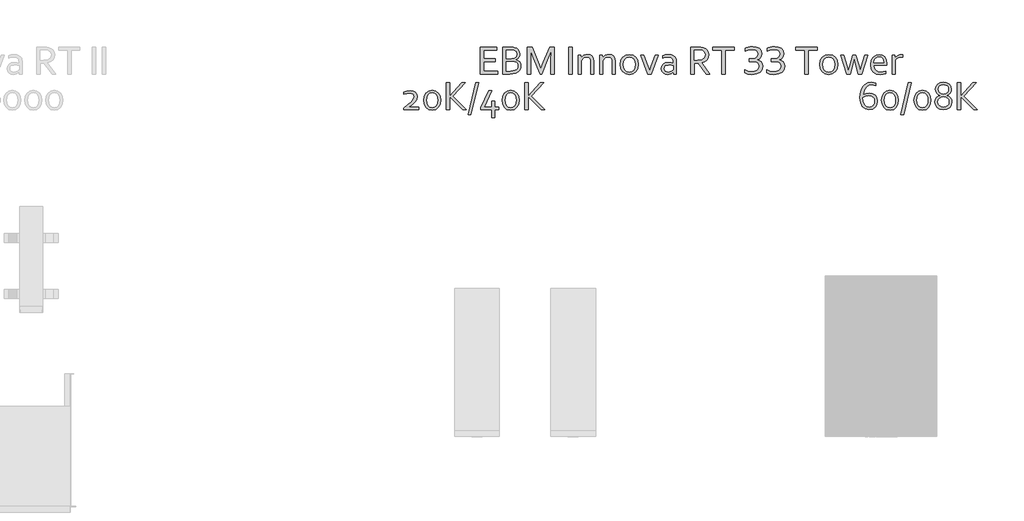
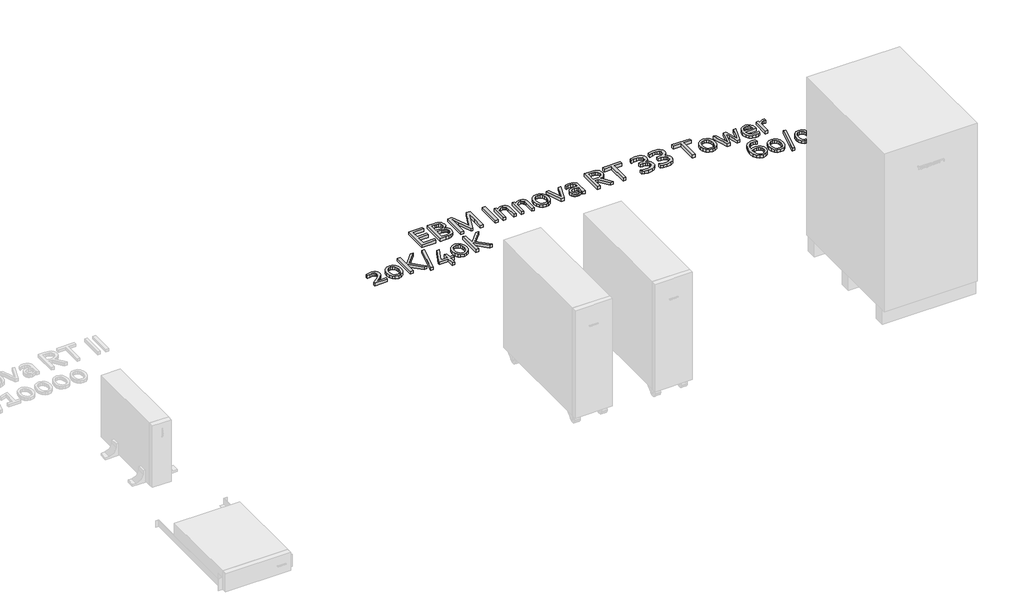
# One storey, part 9 of 14: 1 proxy.
"""IFC4 building model written with IfcOpenShell, lengths in millimetres."""

from ifc_helpers import new_model, si_unit, origin, origin_with_axes, place, context, project, spatial, polyline, outline, extrude, element, save

model = new_model("IFC4")

# Units and contexts
model_context = context("Model", 3, world=origin())
ifc_project = project(units=[si_unit("LENGTHUNIT", "METRE", prefix="MILLI")], contexts=[model_context])

# Site, building, storey
site = spatial("IfcSite", under=ifc_project)
building = spatial("IfcBuilding", under=site)
storey = spatial("IfcBuildingStorey", under=building, Name="Этаж 01", Elevation=0.0)

# Proxy
placement = place(None, origin())
element("IfcBuildingElementProxy", 1, Name="150 мм Corbel", ObjectType="150 мм Corbel", at=placement, inside=storey, context=model_context, shape_type="SweptSolid", body=[
    extrude(outline(polyline([(19122.7174284, -7548.6877316), (19199.6305855, -7548.6877316), (19199.6305855, -7565.4878752), (19103.1172609, -7565.4878752), (19103.1172609, -7414.2865833), (19195.4743, -7414.2865833), (19195.4743, -7431.0867269), (19122.7174284, -7431.0867269), (19122.7174284, -7478.6871335), (19187.4242312, -7478.6871335), (19187.4242312, -7495.4872771), (19122.7174284, -7495.4872771), (19122.7174284, -7548.6877316)])), origin_with_axes(), (0.0, 0.0, 1.0), 20.0),
    extrude(outline(polyline([(19300.4314467, -7486.1246971), (19312.9221784, -7490.1278563), (19322.3285088, -7497.1497913), (19328.0598078, -7507.3217532), (19329.9191986, -7520.7749931), (19328.4098108, -7532.0407144), (19323.3785178, -7543.4814371), (19314.1471889, -7553.7190246), (19299.993943, -7561.37534), (19285.60007, -7564.5691173), (19266.6124078, -7565.4878752), (19229.1183374, -7565.4878752), (19229.1183374, -7414.2865833), (19265.5623988, -7414.2865833), (19274.6406014, -7414.4615848), (19282.1656656, -7414.9647141), (19288.5532202, -7415.7959712), (19294.1313929, -7416.9553561), (19306.6002494, -7422.1616506), (19316.1378309, -7430.0148427), (19322.1972577, -7440.3836813), (19324.3191508, -7453.0056641), (19323.0285148, -7463.4838786), (19318.8722293, -7472.7370827), (19311.4784161, -7480.3277726), (19300.4314467, -7486.1246971)]), holes=[polyline([(19275.8437366, -7478.6871335), (19284.8781888, -7478.1840042), (19291.7688727, -7476.7183667), (19303.7564751, -7468.1214183), (19307.5190073, -7454.3181753), (19303.5814736, -7440.9961865), (19291.2438682, -7433.2742455), (19281.618786, -7431.5898561), (19268.7124257, -7431.0867269), (19248.7185049, -7431.0867269), (19248.7185049, -7478.6871335), (19275.8437366, -7478.6871335)]), polyline([(19248.7185049, -7495.4872771), (19248.7185049, -7548.6877316), (19270.0249369, -7548.6877316), (19284.1125573, -7547.9439753), (19295.1376515, -7545.5814551), (19303.5814736, -7541.1845425), (19309.1596463, -7535.2344917), (19312.2002973, -7528.3219326), (19313.1190551, -7520.9062443), (19312.1346717, -7512.7030492), (19308.9408944, -7505.8342405), (19303.1002195, -7500.5185701), (19294.0876425, -7496.9747898), (19286.650079, -7495.8372801), (19276.3249907, -7495.4872771), (19248.7185049, -7495.4872771)])]), origin_with_axes(), (0.0, 0.0, 1.0), 20.0),
    extrude(outline(polyline([(19446.1639418, -7565.4878752), (19437.6763693, -7565.4878752), (19400.6635531, -7475.1871036), (19385.2634215, -7434.6305071), (19385.9196771, -7492.3810005), (19385.9196771, -7565.4878752), (19366.3195096, -7565.4878752), (19366.3195096, -7414.2865833), (19392.7884858, -7414.2865833), (19428.2262886, -7499.8185641), (19441.6139029, -7535.2126165), (19455.5702722, -7499.8185641), (19491.0518253, -7414.2865833), (19517.5208015, -7414.2865833), (19517.5208015, -7565.4878752), (19497.920634, -7565.4878752), (19497.920634, -7492.3810005), (19499.4956475, -7434.6305071), (19483.1767581, -7475.1871036), (19446.1639418, -7565.4878752)])), origin_with_axes(), (0.0, 0.0, 1.0), 20.0),
    extrude(outline(polyline([(19598.7214952, -7565.4878752), (19598.7214952, -7414.2865833), (19618.3216627, -7414.2865833), (19618.3216627, -7565.4878752), (19598.7214952, -7565.4878752)])), origin_with_axes(), (0.0, 0.0, 1.0), 20.0),
    extrude(outline(polyline([(19668.6345926, -7473.8745924), (19675.350275, -7467.0057837), (19683.203467, -7461.3838607), (19692.7191733, -7457.6213286), (19703.9848946, -7456.2869422), (19717.5912608, -7458.2994594), (19728.5944799, -7464.7963899), (19735.988293, -7476.4996149), (19738.7226914, -7494.2622666), (19738.7226914, -7565.4878752), (19721.9225479, -7565.4878752), (19721.9225479, -7496.4060349), (19720.5772239, -7484.4457765), (19716.5412519, -7476.3902389), (19709.9349454, -7471.8128561), (19700.8786181, -7470.2870618), (19683.3347182, -7475.5152314), (19668.7220933, -7489.8872292), (19668.7220933, -7565.4878752), (19651.9219498, -7565.4878752), (19651.9219498, -7459.0869661), (19665.2658138, -7459.0869661), (19668.6345926, -7473.8745924)])), origin_with_axes(), (0.0, 0.0, 1.0), 20.0),
    extrude(outline(polyline([(19789.0356213, -7473.8745924), (19795.7513036, -7467.0057837), (19803.6044957, -7461.3838607), (19813.120202, -7457.6213286), (19824.3859233, -7456.2869422), (19837.9922895, -7458.2994594), (19848.9955085, -7464.7963899), (19856.3893217, -7476.4996149), (19859.1237201, -7494.2622666), (19859.1237201, -7565.4878752), (19842.3235765, -7565.4878752), (19842.3235765, -7496.4060349), (19840.9782525, -7484.4457765), (19836.9422806, -7476.3902389), (19830.3359741, -7471.8128561), (19821.2796467, -7470.2870618), (19803.7357469, -7475.5152314), (19789.123122, -7489.8872292), (19789.123122, -7565.4878752), (19772.3229785, -7565.4878752), (19772.3229785, -7459.0869661), (19785.6668425, -7459.0869661), (19789.0356213, -7473.8745924)])), origin_with_axes(), (0.0, 0.0, 1.0), 20.0),
    extrude(outline(polyline([(19987.9248205, -7512.4186717), (19984.3591651, -7535.2344917), (19974.2528287, -7552.8877675), (19958.4370686, -7564.2628647), (19937.655641, -7568.2878991), (19916.4585849, -7564.2628647), (19900.5771992, -7552.8877675), (19890.5802388, -7535.2344917), (19887.1239593, -7512.4186717), (19890.6896148, -7489.4278503), (19900.7959511, -7471.7308241), (19916.6773368, -7460.3119765), (19937.5243899, -7456.2869422), (19958.6339453, -7460.3119765), (19974.515331, -7471.7308241), (19984.468541, -7489.4278503), (19987.9248205, -7512.4186717)]), holes=[polyline([(19971.124677, -7512.4186717), (19968.6309057, -7494.546644), (19961.6527211, -7481.312156), (19950.999505, -7473.0870857), (19937.5243899, -7470.2870618), (19924.0492748, -7473.0870857), (19913.3960588, -7481.312156), (19906.4178742, -7494.546644), (19903.9241028, -7512.4186717), (19906.4178742, -7530.1594483), (19913.4616843, -7543.3283108), (19924.1586507, -7551.4877555), (19937.655641, -7554.2877795), (19951.0651306, -7551.4877555), (19961.6527211, -7543.3283108), (19968.6309057, -7530.1594483), (19971.124677, -7512.4186717)])]), origin_with_axes(), (0.0, 0.0, 1.0), 20.0),
    extrude(outline(polyline([(20050.8378581, -7547.9002249), (20061.60045, -7518.2374715), (20083.1256339, -7459.0869661), (20099.9257774, -7459.0869661), (20059.8941854, -7565.4878752), (20041.9565322, -7565.4878752), (20001.9249401, -7459.0869661), (20018.7250837, -7459.0869661), (20040.1190165, -7518.2374715), (20050.8378581, -7547.9002249)])), origin_with_axes(), (0.0, 0.0, 1.0), 20.0),
    extrude(outline(polyline([(20184.4514996, -7553.7190246), (20178.6545751, -7559.034695), (20171.2388867, -7563.7597354), (20162.0513082, -7567.0628886), (20151.4199674, -7568.2878991), (20137.3979726, -7566.0347548), (20126.438504, -7559.4065732), (20119.2853179, -7548.7533572), (20116.725921, -7534.5126105), (20119.5696953, -7520.5124909), (20127.5322633, -7510.0342764), (20139.8479935, -7503.4060947), (20155.7512544, -7501.0873249), (20170.9982597, -7502.5748376), (20183.4889914, -7505.9436164), (20183.9264951, -7498.3310514), (20183.3577403, -7489.9966052), (20181.4327238, -7483.6309258), (20172.1576446, -7474.0714691), (20154.8762469, -7470.2870618), (20139.672992, -7471.7745745), (20125.5197461, -7475.8871096), (20125.5197461, -7462.1932426), (20131.8416751, -7459.8088472), (20139.5198657, -7457.905706), (20148.0293134, -7456.7025707), (20157.0200153, -7456.2869422), (20171.6545153, -7457.7142981), (20183.2702395, -7461.9963659), (20191.9328135, -7468.6300164), (20197.7078629, -7477.1121201), (20200.0266327, -7485.0090626), (20200.7266387, -7494.4810185), (20200.7266387, -7565.4878752), (20186.3327657, -7565.4878752), (20184.4514996, -7553.7190246)]), holes=[polyline([(20183.9264951, -7519.0687286), (20172.3107709, -7516.4655813), (20157.5450197, -7515.0874445), (20139.8917439, -7519.8562353), (20135.1174844, -7525.9047245), (20133.5260645, -7534.5126105), (20135.1229532, -7543.2626853), (20139.4979905, -7549.4533632), (20146.0824218, -7553.0846442), (20154.2199913, -7554.2877795), (20164.8075818, -7552.6471404), (20173.5139062, -7548.731482), (20179.9889615, -7544.1814431), (20183.9264951, -7540.6376628), (20183.9264951, -7519.0687286)])]), origin_with_axes(), (0.0, 0.0, 1.0), 20.0),
    extrude(outline(polyline([(20301.5274999, -7503.8873488), (20301.5274999, -7565.4878752), (20281.9273324, -7565.4878752), (20281.9273324, -7414.2865833), (20320.9089155, -7414.2865833), (20337.709059, -7415.0303397), (20350.3529171, -7417.3928599), (20364.2436607, -7423.2554099), (20374.4156226, -7432.1804862), (20380.6500509, -7443.9383992), (20382.7281937, -7458.2994594), (20379.8187938, -7474.880851), (20371.6374739, -7487.5684594), (20359.0154911, -7496.3622846), (20342.6966016, -7501.3935775), (20388.3282415, -7565.4878752), (20368.728074, -7565.4878752), (20323.2714357, -7503.8873488), (20301.5274999, -7503.8873488)]), holes=[polyline([(20301.5274999, -7431.0867269), (20301.5274999, -7487.0872053), (20319.2026509, -7487.0872053), (20333.2465209, -7486.5184504), (20343.7028602, -7484.4621829), (20358.074858, -7474.9683518), (20363.1280262, -7457.9494564), (20358.2936099, -7442.111821), (20345.2341233, -7433.4929974), (20335.8059178, -7431.6554817), (20321.8276733, -7431.0867269), (20301.5274999, -7431.0867269)])]), origin_with_axes(), (0.0, 0.0, 1.0), 20.0),
    extrude(outline(polyline([(20475.1289831, -7565.4878752), (20455.5288157, -7565.4878752), (20455.5288157, -7431.0867269), (20405.4346377, -7431.0867269), (20405.4346377, -7414.2865833), (20525.2231611, -7414.2865833), (20525.2231611, -7431.0867269), (20475.1289831, -7431.0867269), (20475.1289831, -7565.4878752)])), origin_with_axes(), (0.0, 0.0, 1.0), 20.0),
    extrude(outline(polyline([(20586.2986829, -7420.9803905), (20593.911248, -7417.5678613), (20603.6019558, -7414.5709607), (20615.0864289, -7412.3615669), (20627.9927892, -7411.4865594), (20649.9117264, -7414.2865833), (20666.0993647, -7422.3804025), (20676.1182003, -7435.2648875), (20679.5307295, -7452.5681604), (20677.5619627, -7465.0370169), (20672.2462923, -7474.5745984), (20664.4149753, -7481.4871575), (20654.9867698, -7486.0371963), (20666.361867, -7490.674736), (20675.6806966, -7497.5435446), (20682.396379, -7507.6717562), (20685.1307773, -7521.4312487), (20681.6526226, -7539.5876539), (20670.7369044, -7554.5065313), (20651.8586181, -7564.5691173), (20624.4052585, -7568.2878991), (20602.0050671, -7565.9035037), (20584.1549146, -7559.144071), (20584.1549146, -7542.8689319), (20601.7425649, -7549.1471105), (20622.2614902, -7551.4877555), (20641.0413381, -7549.5080511), (20654.5930164, -7543.5689379), (20662.7962115, -7533.9657308), (20665.5306099, -7520.993745), (20663.1352769, -7510.1764651), (20655.949278, -7502.1373339), (20643.9726132, -7497.1497913), (20627.2052824, -7495.4872771), (20610.2738878, -7495.4872771), (20610.2738878, -7478.6871335), (20625.5427682, -7478.6871335), (20642.1241599, -7476.8277427), (20652.7117504, -7471.6214482), (20658.3117982, -7463.7026305), (20659.930562, -7453.7494205), (20657.9180448, -7443.4243323), (20651.6398662, -7435.3523883), (20640.8335239, -7430.1460938), (20625.0615141, -7428.2867029), (20605.1769692, -7430.5835976), (20586.2986829, -7436.6867747), (20586.2986829, -7420.9803905)])), origin_with_axes(), (0.0, 0.0, 1.0), 20.0),
    extrude(outline(polyline([(20709.4997355, -7420.9803905), (20717.1123006, -7417.5678613), (20726.8030084, -7414.5709607), (20738.2874815, -7412.3615669), (20751.1938418, -7411.4865594), (20773.112779, -7414.2865833), (20789.3004173, -7422.3804025), (20799.3192529, -7435.2648875), (20802.7317821, -7452.5681604), (20800.7630153, -7465.0370169), (20795.4473449, -7474.5745984), (20787.616028, -7481.4871575), (20778.1878224, -7486.0371963), (20789.5629196, -7490.674736), (20798.8817492, -7497.5435446), (20805.5974316, -7507.6717562), (20808.3318299, -7521.4312487), (20804.8536752, -7539.5876539), (20793.937957, -7554.5065313), (20775.0596707, -7564.5691173), (20747.6063111, -7568.2878991), (20725.2061197, -7565.9035037), (20707.3559672, -7559.144071), (20707.3559672, -7542.8689319), (20724.9436175, -7549.1471105), (20745.4625428, -7551.4877555), (20764.2423908, -7549.5080511), (20777.794069, -7543.5689379), (20785.9972641, -7533.9657308), (20788.7316625, -7520.993745), (20786.3363295, -7510.1764651), (20779.1503306, -7502.1373339), (20767.1736658, -7497.1497913), (20750.406335, -7495.4872771), (20733.4749404, -7495.4872771), (20733.4749404, -7478.6871335), (20748.7438208, -7478.6871335), (20765.3252125, -7476.8277427), (20775.912803, -7471.6214482), (20781.5128508, -7463.7026305), (20783.1316146, -7453.7494205), (20781.1190974, -7443.4243323), (20774.8409188, -7435.3523883), (20764.0345765, -7430.1460938), (20748.2625667, -7428.2867029), (20728.3780218, -7430.5835976), (20709.4997355, -7436.6867747), (20709.4997355, -7420.9803905)])), origin_with_axes(), (0.0, 0.0, 1.0), 20.0),
    extrude(outline(polyline([(20939.9329543, -7565.4878752), (20920.3327869, -7565.4878752), (20920.3327869, -7431.0867269), (20870.2386089, -7431.0867269), (20870.2386089, -7414.2865833), (20990.0271323, -7414.2865833), (20990.0271323, -7431.0867269), (20939.9329543, -7431.0867269), (20939.9329543, -7565.4878752)])), origin_with_axes(), (0.0, 0.0, 1.0), 20.0),
    extrude(outline(polyline([(21105.1343658, -7512.4186717), (21101.5687103, -7535.2344917), (21091.462374, -7552.8877675), (21075.6466138, -7564.2628647), (21054.8651863, -7568.2878991), (21033.6681302, -7564.2628647), (21017.7867445, -7552.8877675), (21007.7897841, -7535.2344917), (21004.3335045, -7512.4186717), (21007.89916, -7489.4278503), (21018.0054964, -7471.7308241), (21033.886882, -7460.3119765), (21054.7339352, -7456.2869422), (21075.8434905, -7460.3119765), (21091.7248762, -7471.7308241), (21101.6780862, -7489.4278503), (21105.1343658, -7512.4186717)]), holes=[polyline([(21088.3342222, -7512.4186717), (21085.8404509, -7494.546644), (21078.8622663, -7481.312156), (21068.2090503, -7473.0870857), (21054.7339352, -7470.2870618), (21041.25882, -7473.0870857), (21030.605604, -7481.312156), (21023.6274194, -7494.546644), (21021.1336481, -7512.4186717), (21023.6274194, -7530.1594483), (21030.6712296, -7543.3283108), (21041.368196, -7551.4877555), (21054.8651863, -7554.2877795), (21068.2746759, -7551.4877555), (21078.8622663, -7543.3283108), (21085.8404509, -7530.1594483), (21088.3342222, -7512.4186717)])]), origin_with_axes(), (0.0, 0.0, 1.0), 20.0),
    extrude(outline(polyline([(21197.4476545, -7476.6746163), (21190.841348, -7502.0060828), (21173.7349519, -7565.4878752), (21156.2785527, -7565.4878752), (21121.9345093, -7459.0869661), (21138.7346528, -7459.0869661), (21158.9473255, -7525.3687824), (21165.0286275, -7546.3252114), (21171.3724317, -7523.0500126), (21189.1350835, -7459.0869661), (21205.935227, -7459.0869661), (21224.660387, -7523.0500126), (21230.9166904, -7546.3252114), (21237.1292435, -7525.3687824), (21256.3356576, -7459.0869661), (21273.1358011, -7459.0869661), (21238.7917577, -7565.4878752), (21221.1603571, -7565.4878752), (21204.0102106, -7502.0060828), (21197.4476545, -7476.6746163)])), origin_with_axes(), (0.0, 0.0, 1.0), 20.0),
    extrude(outline(polyline([(21345.2801675, -7554.2877795), (21361.0521773, -7552.8221419), (21375.2491736, -7548.6877316), (21375.2491736, -7562.5128497), (21361.1178029, -7566.7347608), (21343.0488985, -7568.2878991), (21321.5893401, -7565.3784992), (21304.5704447, -7555.9721689), (21293.7641024, -7538.9970238), (21289.9359447, -7513.731183), (21293.9172287, -7488.4872173), (21304.5048192, -7470.6370648), (21319.7299492, -7459.8744728), (21337.7113529, -7456.2869422), (21354.2052438, -7459.2182172), (21367.5053574, -7468.4495461), (21376.4085585, -7484.7028099), (21379.6679613, -7508.5686388), (21379.6679613, -7510.8217831), (21379.5367102, -7515.0874445), (21305.8173304, -7515.0874445), (21308.9017317, -7533.2876), (21317.3236787, -7545.4064536), (21329.8362856, -7552.1658863), (21345.2801675, -7554.2877795)]), holes=[polyline([(21336.9675965, -7470.2870618), (21325.4612482, -7472.7152075), (21316.186169, -7479.321514), (21309.754864, -7489.0997225), (21306.7360882, -7501.0873249), (21362.7365667, -7501.0873249), (21361.0521773, -7488.9903466), (21356.0865099, -7479.212138), (21348.0364411, -7472.6714571), (21336.9675965, -7470.2870618)])]), origin_with_axes(), (0.0, 0.0, 1.0), 20.0),
    extrude(outline(polyline([(21468.1312172, -7470.2870618), (21454.6998524, -7471.4464467), (21443.5435071, -7474.9683518), (21434.1371767, -7480.8090267), (21427.1371169, -7489.0122218), (21427.1371169, -7565.4878752), (21410.3369734, -7565.4878752), (21410.3369734, -7459.0869661), (21423.3308344, -7459.0869661), (21426.568362, -7476.0183607), (21433.2184189, -7468.2745446), (21441.6841162, -7461.9963659), (21452.0092044, -7457.7963301), (21463.7999301, -7456.2869422), (21466.0749496, -7456.3306925), (21468.1312172, -7456.4619437), (21468.1312172, -7470.2870618)])), origin_with_axes(), (0.0, 0.0, 1.0), 20.0),
    extrude(outline(polyline([(18701.0950761, -7752.3256899), (18724.2827742, -7751.8881861), (18757.970562, -7751.8881861), (18757.970562, -7765.8883058), (18672.7010835, -7765.8883058), (18672.7010835, -7756.3507243), (18696.4794116, -7738.5661973), (18715.248322, -7722.7504372), (18727.6296778, -7708.0065612), (18732.1140911, -7693.5689379), (18730.5445464, -7684.9610518), (18725.8359125, -7678.6500604), (18718.1850658, -7674.7781523), (18707.7888833, -7673.4875163), (18690.8137382, -7675.084405), (18673.8385932, -7679.0875642), (18673.8385932, -7667.012461), (18689.5887278, -7661.7405409), (18710.1514035, -7659.4873967), (18726.2952914, -7661.7186658), (18738.5235209, -7668.2155963), (18746.2017115, -7678.7594363), (18748.9142346, -7693.2626853), (18745.3704544, -7709.6253251), (18735.5703706, -7724.2379499), (18720.3452406, -7738.063068), (18701.0950761, -7752.3256899)])), origin_with_axes(), (0.0, 0.0, 1.0), 20.0),
    extrude(outline(polyline([(18880.515359, -7712.8191023), (18877.2997065, -7734.9130411), (18867.9590017, -7752.6538177), (18853.0619995, -7764.4226682), (18833.0024531, -7768.6883297), (18812.5491533, -7764.4226682), (18797.5865255, -7752.6538177), (18788.4208222, -7734.9130411), (18785.3145456, -7712.8191023), (18788.5301981, -7690.5720373), (18797.8709029, -7672.7656351), (18812.8335308, -7660.9530342), (18832.9149523, -7656.6873728), (18853.2807513, -7660.9530342), (18868.2433792, -7672.7656351), (18877.4090825, -7690.5720373), (18880.515359, -7712.8191023)]), holes=[polyline([(18863.7152155, -7712.8191023), (18861.5276968, -7695.1658265), (18855.3370189, -7681.9313384), (18845.6681863, -7673.5968922), (18832.9149523, -7670.6874924), (18820.1617184, -7673.5968922), (18810.4491354, -7681.9313384), (18804.2584575, -7695.1658265), (18802.1146892, -7712.8191023), (18804.3022079, -7730.3192519), (18810.4928858, -7743.5099896), (18820.2273439, -7751.7788102), (18833.0462035, -7754.6882101), (18845.7775622, -7751.7788102), (18855.4463948, -7743.5099896), (18861.5714472, -7730.3192519), (18863.7152155, -7712.8191023)])]), origin_with_axes(), (0.0, 0.0, 1.0), 20.0),
    extrude(outline(polyline([(18911.3156222, -7765.8883058), (18911.3156222, -7614.6870139), (18930.9157896, -7614.6870139), (18930.9157896, -7689.368902), (18998.1163638, -7614.6870139), (19017.7165312, -7614.6870139), (18947.7596835, -7689.9376569), (19023.3165791, -7765.8883058), (19003.7164116, -7765.8883058), (18931.1345415, -7691.8626733), (18931.1345415, -7765.8883058), (18911.3156222, -7765.8883058)])), origin_with_axes(), (0.0, 0.0, 1.0), 20.0),
    extrude(outline(polyline([(19033.7291681, -7793.888545), (19076.3420321, -7614.6870139), (19092.9234238, -7614.6870139), (19050.3105597, -7793.888545), (19033.7291681, -7793.888545)])), origin_with_axes(), (0.0, 0.0, 1.0), 20.0),
    extrude(outline(polyline([(19124.9486974, -7751.8881861), (19141.5738395, -7751.8881861), (19166.1177992, -7751.8881861), (19166.1177992, -7717.806645), (19182.9179427, -7717.806645), (19182.9179427, -7751.8881861), (19205.0118815, -7751.8881861), (19205.0118815, -7766.9383147), (19182.9179427, -7766.9383147), (19182.9179427, -7810.6886885), (19166.1177992, -7810.6886885), (19166.1177992, -7765.8883058), (19105.1297781, -7765.8883058), (19105.1297781, -7753.1131966), (19149.2739052, -7659.4873967), (19167.9553149, -7659.4873967), (19124.9486974, -7751.8881861)])), origin_with_axes(), (0.0, 0.0, 1.0), 20.0),
    extrude(outline(polyline([(19320.1191149, -7712.8191023), (19316.9034624, -7734.9130411), (19307.5627576, -7752.6538177), (19292.6657554, -7764.4226682), (19272.606209, -7768.6883297), (19252.1529092, -7764.4226682), (19237.1902814, -7752.6538177), (19228.0245781, -7734.9130411), (19224.9183015, -7712.8191023), (19228.133954, -7690.5720373), (19237.4746588, -7672.7656351), (19252.4372867, -7660.9530342), (19272.5187082, -7656.6873728), (19292.8845072, -7660.9530342), (19307.8471351, -7672.7656351), (19317.0128384, -7690.5720373), (19320.1191149, -7712.8191023)]), holes=[polyline([(19303.3189714, -7712.8191023), (19301.1314527, -7695.1658265), (19294.9407748, -7681.9313384), (19285.2719422, -7673.5968922), (19272.5187082, -7670.6874924), (19259.7654743, -7673.5968922), (19250.0528913, -7681.9313384), (19243.8622134, -7695.1658265), (19241.7184451, -7712.8191023), (19243.9059638, -7730.3192519), (19250.0966417, -7743.5099896), (19259.8310998, -7751.7788102), (19272.6499593, -7754.6882101), (19285.3813181, -7751.7788102), (19295.0501507, -7743.5099896), (19301.1752031, -7730.3192519), (19303.3189714, -7712.8191023)])]), origin_with_axes(), (0.0, 0.0, 1.0), 20.0),
    extrude(outline(polyline([(19350.9193781, -7765.8883058), (19350.9193781, -7614.6870139), (19370.5195455, -7614.6870139), (19370.5195455, -7689.368902), (19437.7201197, -7614.6870139), (19457.3202871, -7614.6870139), (19387.3634394, -7689.9376569), (19462.920335, -7765.8883058), (19443.3201675, -7765.8883058), (19370.7382974, -7691.8626733), (19370.7382974, -7765.8883058), (19350.9193781, -7765.8883058)])), origin_with_axes(), (0.0, 0.0, 1.0), 20.0),
    extrude(outline(polyline([(21280.3108625, -7673.4875163), (21299.3203999, -7676.3312906), (21314.3705285, -7684.7313624), (21324.2143626, -7698.4471046), (21327.7362676, -7717.2816405), (21324.49874, -7736.9255583), (21315.13616, -7752.2819395), (21300.1735322, -7762.2788999), (21280.0921106, -7765.8883058), (21258.8294289, -7761.228891), (21243.0136688, -7747.9069021), (21233.1479595, -7726.9285979), (21229.7354303, -7699.3002368), (21231.4416949, -7676.5281673), (21236.5386135, -7655.7686149), (21244.9605604, -7638.0059632), (21257.0575388, -7624.1370947), (21272.8732989, -7615.1026425), (21291.9484619, -7611.88699), (21306.6267123, -7613.5495042), (21316.9299253, -7617.0932845), (21316.9299253, -7631.4871575), (21306.1892086, -7627.6152494), (21293.1734723, -7625.8871096), (21277.5545889, -7629.212138), (21263.8169715, -7639.4716007), (21253.3168818, -7657.0811261), (21247.3230806, -7682.3250918), (21263.64197, -7675.8937869), (21280.3108625, -7673.4875163)]), holes=[polyline([(21280.8796173, -7751.8881861), (21292.6922182, -7749.7006675), (21302.2297997, -7743.2693625), (21308.6173543, -7732.7692728), (21310.9361241, -7718.4629006), (21308.4861032, -7703.9596517), (21301.8141712, -7694.3564446), (21291.9265867, -7689.0845246), (21279.8296083, -7687.4876359), (21262.5263355, -7690.3532854), (21246.5355739, -7697.3752204), (21248.9637196, -7721.4160508), (21256.0731554, -7738.4568214), (21266.9888736, -7748.5631577), (21280.8796173, -7751.8881861)])]), origin_with_axes(), (0.0, 0.0, 1.0), 20.0),
    extrude(outline(polyline([(21445.3372724, -7712.8191023), (21442.1216199, -7734.9130411), (21432.7809151, -7752.6538177), (21417.8839129, -7764.4226682), (21397.8243665, -7768.6883297), (21377.3710667, -7764.4226682), (21362.4084389, -7752.6538177), (21353.2427356, -7734.9130411), (21350.136459, -7712.8191023), (21353.3521115, -7690.5720373), (21362.6928163, -7672.7656351), (21377.6554441, -7660.9530342), (21397.7368657, -7656.6873728), (21418.1026647, -7660.9530342), (21433.0652926, -7672.7656351), (21442.2309959, -7690.5720373), (21445.3372724, -7712.8191023)]), holes=[polyline([(21428.5371289, -7712.8191023), (21426.3496102, -7695.1658265), (21420.1589323, -7681.9313384), (21410.4900997, -7673.5968922), (21397.7368657, -7670.6874924), (21384.9836318, -7673.5968922), (21375.2710488, -7681.9313384), (21369.0803709, -7695.1658265), (21366.9366026, -7712.8191023), (21369.1241213, -7730.3192519), (21375.3147991, -7743.5099896), (21385.0492573, -7751.7788102), (21397.8681168, -7754.6882101), (21410.5994756, -7751.7788102), (21420.2683082, -7743.5099896), (21426.3933606, -7730.3192519), (21428.5371289, -7712.8191023)])]), origin_with_axes(), (0.0, 0.0, 1.0), 20.0),
    extrude(outline(polyline([(21458.5498853, -7793.888545), (21501.1627494, -7614.6870139), (21517.744141, -7614.6870139), (21475.131277, -7793.888545), (21458.5498853, -7793.888545)])), origin_with_axes(), (0.0, 0.0, 1.0), 20.0),
    extrude(outline(polyline([(21627.3388274, -7712.8191023), (21624.1231749, -7734.9130411), (21614.7824701, -7752.6538177), (21599.8854678, -7764.4226682), (21579.8259215, -7768.6883297), (21559.3726217, -7764.4226682), (21544.4099939, -7752.6538177), (21535.2442906, -7734.9130411), (21532.138014, -7712.8191023), (21535.3536665, -7690.5720373), (21544.6943713, -7672.7656351), (21559.6569991, -7660.9530342), (21579.7384207, -7656.6873728), (21600.1042197, -7660.9530342), (21615.0668475, -7672.7656351), (21624.2325509, -7690.5720373), (21627.3388274, -7712.8191023)]), holes=[polyline([(21610.5386839, -7712.8191023), (21608.3511652, -7695.1658265), (21602.1604873, -7681.9313384), (21592.4916547, -7673.5968922), (21579.7384207, -7670.6874924), (21566.9851867, -7673.5968922), (21557.2726038, -7681.9313384), (21551.0819259, -7695.1658265), (21548.9381576, -7712.8191023), (21551.1256762, -7730.3192519), (21557.3163541, -7743.5099896), (21567.0508123, -7751.7788102), (21579.8696718, -7754.6882101), (21592.6010306, -7751.7788102), (21602.2698632, -7743.5099896), (21608.3949155, -7730.3192519), (21610.5386839, -7712.8191023)])]), origin_with_axes(), (0.0, 0.0, 1.0), 20.0),
    extrude(outline(polyline([(21697.3394255, -7765.8883058), (21677.8923843, -7762.7164037), (21662.8422557, -7753.9882041), (21653.1515479, -7740.8193416), (21649.7390188, -7724.3254507), (21651.9265375, -7709.7565762), (21658.0953402, -7698.7533572), (21667.3922946, -7691.0314162), (21678.6580159, -7686.5251277), (21668.2891773, -7680.9907054), (21659.9984814, -7673.2906396), (21654.5078095, -7663.0968025), (21652.5390427, -7650.5185701), (21656.3015749, -7633.9153032), (21666.3422856, -7621.7964497), (21680.6486579, -7614.3807613), (21697.3394255, -7611.88699), (21714.0301931, -7614.3807613), (21728.3365653, -7621.7964497), (21738.3772761, -7633.9153032), (21742.1398082, -7650.5185701), (21739.9522895, -7663.0968025), (21734.0678643, -7673.2906396), (21725.4271654, -7680.9907054), (21714.8833254, -7686.087624), (21726.3240481, -7691.0314162), (21736.0147559, -7698.7533572), (21742.577312, -7709.7565762), (21744.9398322, -7724.3254507), (21741.527303, -7740.8193416), (21731.8365952, -7753.9882041), (21716.7864666, -7762.7164037), (21697.3394255, -7765.8883058)]), holes=[polyline([(21697.3394255, -7625.8871096), (21686.161205, -7627.5058734), (21677.2580039, -7632.3184146), (21671.417329, -7640.1059811), (21669.3391862, -7650.7373219), (21671.1767019, -7661.0952229), (21676.689249, -7669.3312308), (21685.5268245, -7675.3578448), (21697.3394255, -7679.0875642), (21709.1520264, -7675.3578448), (21717.9896019, -7669.3312308), (21723.502149, -7661.0952229), (21725.3396647, -7650.7373219), (21723.2615219, -7640.1059811), (21717.420847, -7632.3184146), (21708.5613963, -7627.5058734), (21697.3394255, -7625.8871096)]), polyline([(21697.3394255, -7693.0876838), (21685.3518231, -7695.9095829), (21675.5517393, -7701.7502578), (21668.9454329, -7710.8722107), (21666.5391623, -7723.5379439), (21668.8798073, -7735.3505449), (21675.3329875, -7744.3193715), (21685.0893208, -7749.9412945), (21697.3394255, -7751.8881861), (21709.7207813, -7749.9412945), (21719.4771146, -7744.3193715), (21725.8646692, -7735.3505449), (21728.1396886, -7723.5379439), (21725.7334181, -7710.8722107), (21719.1271116, -7701.7502578), (21709.3270279, -7695.9095829), (21697.3394255, -7693.0876838)])]), origin_with_axes(), (0.0, 0.0, 1.0), 20.0),
    extrude(outline(polyline([(21775.7400953, -7765.8883058), (21775.7400953, -7614.6870139), (21795.3402628, -7614.6870139), (21795.3402628, -7689.368902), (21862.5408369, -7614.6870139), (21882.1410044, -7614.6870139), (21812.1841567, -7689.9376569), (21887.7410522, -7765.8883058), (21868.1408848, -7765.8883058), (21795.5590146, -7691.8626733), (21795.5590146, -7765.8883058), (21775.7400953, -7765.8883058)])), origin_with_axes(), (0.0, 0.0, 1.0), 20.0),
])

save(model, "model.ifc")
